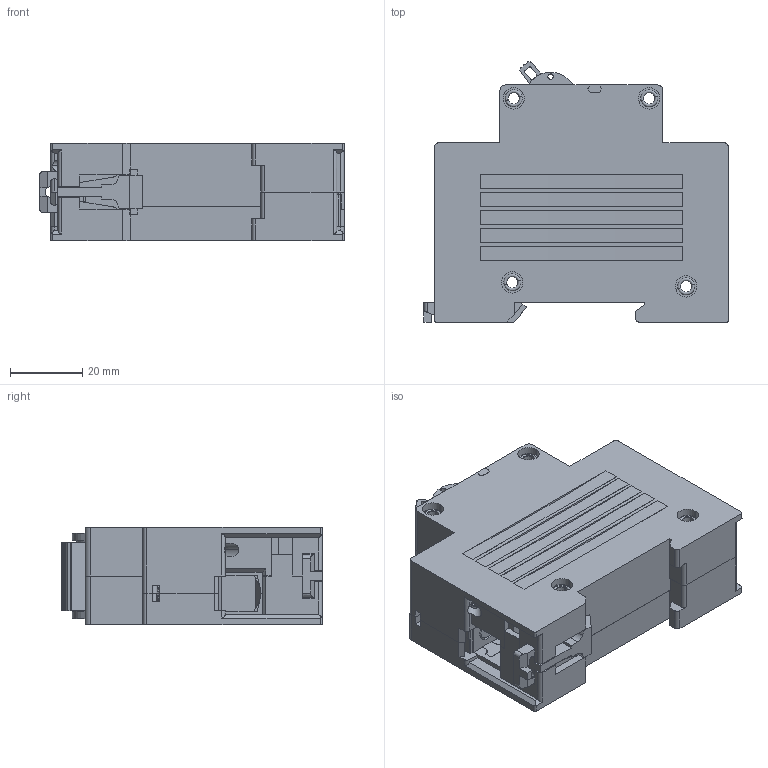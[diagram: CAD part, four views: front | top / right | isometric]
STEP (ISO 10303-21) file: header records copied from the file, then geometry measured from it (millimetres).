
FILE_DESCRIPTION (( 'STEP AP203' ), '1' );
FILE_NAME ('2YJ.292.2300.1-8 BKH-b塑壳断路器（1P）.STEP', '2017-09-28T08:50:50', ( 'User' ), ( 'Company' ), 'SwSTEP 2.0', 'SolidWorks 2014', '' );
FILE_SCHEMA (( 'CONFIG_CONTROL_DESIGN' ));
Length unit declared in the file: millimetre
Products named in the file (14): 忒梟價釱; 2YJ.292.2300.1-8 BKH-b塑壳断路器（1P）; 8YJ.288.2301 忒梟囀粟銅; 忒梟; 5YJ.574.2300.1-2 諉盄釱_萵掛; 8YJ.315.2300 等憤裔; 8YJ.024.2300 等憤菁釱; 弝敦; 諉盄遺; 覃誹蹟隊; 蹟隊; 8YJ.960.2300.1-4 穩隊; 假蚾縐
Assembly tree (18 placements, depth 3):
  2YJ.292.2300.1-8 BKH-b塑壳断路器（1P）
    8YJ.024.2300 等憤菁釱
    諉盄遺
    蹟隊
    忒梟
      忒梟
      忒梟價釱
      8YJ.288.2301 忒梟囀粟銅
    5YJ.574.2300.1-2 諉盄釱_萵掛
      諉盄遺
      蹟隊
    8YJ.315.2300 等憤裔
    弝敦
    覃誹蹟隊
    8YJ.960.2300.1-4 穩隊  x4
    假蚾縐
Bounding box: 84 x 71.94 x 26.8 mm (x, y, z)
Volume: 44479.5 mm3; surface area: 58274.7 mm2
Topology: 16 solids, 16 shells, 1809 faces, 4852 edges, 3126 vertices
Faces by surface type: plane 1201, cylinder 492, bspline 44, cone 38, torus 32, sphere 2
Entity records: 53000 total; most frequent: CARTESIAN_POINT 12043, ORIENTED_EDGE 8310, DIRECTION 8101, EDGE_CURVE 4155, VECTOR 3173, LINE 3173, VERTEX_POINT 2700, AXIS2_PLACEMENT_3D 2464
